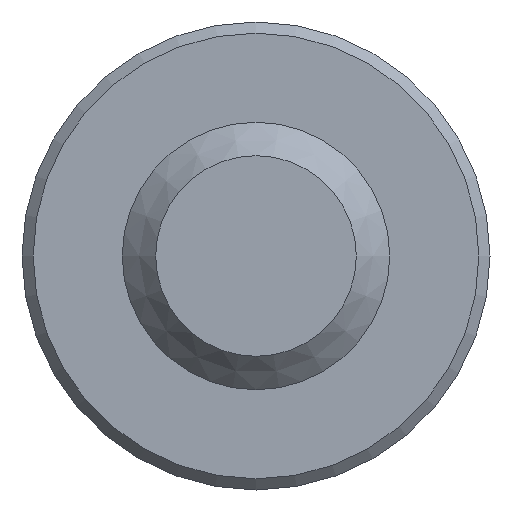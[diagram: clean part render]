
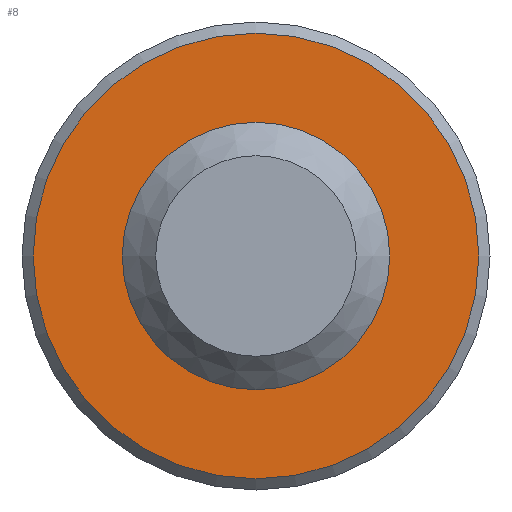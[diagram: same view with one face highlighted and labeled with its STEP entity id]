
A CAD part, front view. The second image highlights one B-rep face of the part: STEP entity #8.
In plain terms, the highlighted planar face has unit normal (0, -1, 0).
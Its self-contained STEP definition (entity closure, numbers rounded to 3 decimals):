
#8 = ADVANCED_FACE ( 'NONE', ( #314, #198 ), #192, .F. ) ;
#56 = CARTESIAN_POINT ( 'NONE',  ( -1.05, 3.5, 0. ) ) ;
#69 = AXIS2_PLACEMENT_3D ( 'NONE', #374, #550, #268 ) ;
#99 = DIRECTION ( 'NONE',  ( -1., 0., 0. ) ) ;
#137 = AXIS2_PLACEMENT_3D ( 'NONE', #56, #530, #240 ) ;
#138 = CARTESIAN_POINT ( 'NONE',  ( 0., 3.5, 0. ) ) ;
#189 = DIRECTION ( 'NONE',  ( 0., -1., 0. ) ) ;
#192 = PLANE ( 'NONE',  #137 ) ;
#197 = EDGE_LOOP ( 'NONE', ( #555 ) ) ;
#198 = FACE_BOUND ( 'NONE', #340, .T. ) ;
#240 = DIRECTION ( 'NONE',  ( -1., 0., 0. ) ) ;
#254 = VERTEX_POINT ( 'NONE', #548 ) ;
#268 = DIRECTION ( 'NONE',  ( 1., 0., 0. ) ) ;
#314 = FACE_OUTER_BOUND ( 'NONE', #197, .T. ) ;
#340 = EDGE_LOOP ( 'NONE', ( #456 ) ) ;
#342 = CIRCLE ( 'NONE', #69, 0.6 ) ;
#348 = AXIS2_PLACEMENT_3D ( 'NONE', #138, #189, #99 ) ;
#358 = CIRCLE ( 'NONE', #348, 1. ) ;
#374 = CARTESIAN_POINT ( 'NONE',  ( 0., 3.5, 0. ) ) ;
#377 = EDGE_CURVE ( 'NONE', #254, #254, #358, .T. ) ;
#411 = CARTESIAN_POINT ( 'NONE',  ( 0.6, 3.5, 0. ) ) ;
#420 = VERTEX_POINT ( 'NONE', #411 ) ;
#456 = ORIENTED_EDGE ( 'NONE', *, *, #551, .F. ) ;
#530 = DIRECTION ( 'NONE',  ( 0., 1., 0. ) ) ;
#548 = CARTESIAN_POINT ( 'NONE',  ( -1., 3.5, 0. ) ) ;
#550 = DIRECTION ( 'NONE',  ( 0., -1., 0. ) ) ;
#551 = EDGE_CURVE ( 'NONE', #420, #420, #342, .T. ) ;
#555 = ORIENTED_EDGE ( 'NONE', *, *, #377, .T. ) ;
